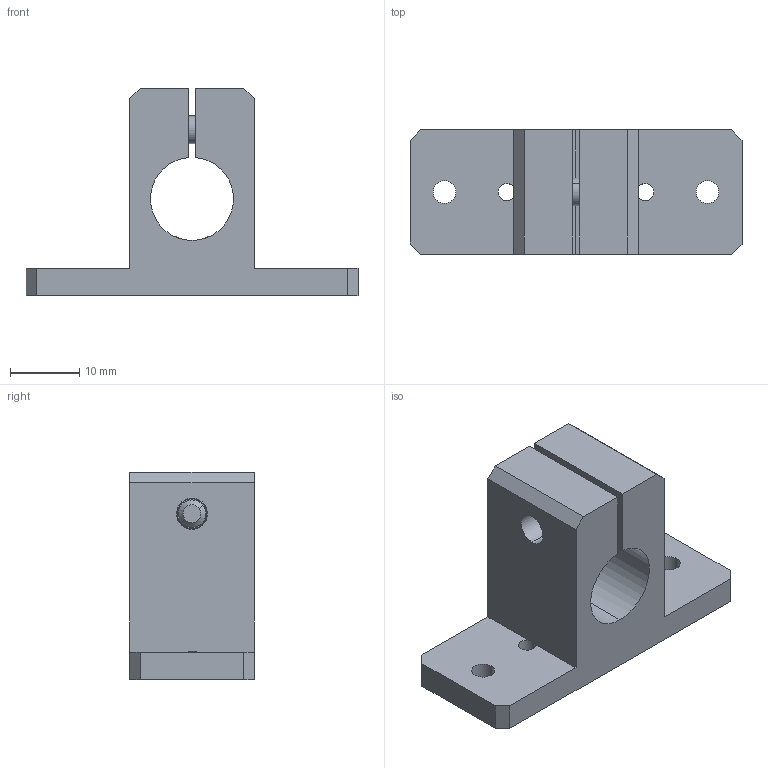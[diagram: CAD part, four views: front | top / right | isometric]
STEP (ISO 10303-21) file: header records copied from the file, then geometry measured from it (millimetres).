
FILE_DESCRIPTION (( 'STEP AP214' ), '1' );
FILE_NAME ('SMBU7-12T.STEP', '2023-01-05T02:19:45', ( 'Windows User' ), ( 'P R C' ), 'SwSTEP 2.0', 'SolidWorks 2018', '' );
FILE_SCHEMA (( 'AUTOMOTIVE_DESIGN' ));
Length unit declared in the file: millimetre
Products named in the file (1): SMBU7-12T
Bounding box: 48 x 18 x 30 mm (x, y, z)
Volume: 9271.9 mm3; surface area: 5600.4 mm2
Topology: 3 solids, 3 shells, 260 faces, 753 edges, 497 vertices
Faces by surface type: plane 224, cylinder 29, cone 5, bspline 2
Entity records: 11727 total; most frequent: CARTESIAN_POINT 1731, ORIENTED_EDGE 1506, DIRECTION 1502, EDGE_CURVE 753, AXIS2_PLACEMENT_3D 504, VERTEX_POINT 497, VECTOR 494, LINE 494
